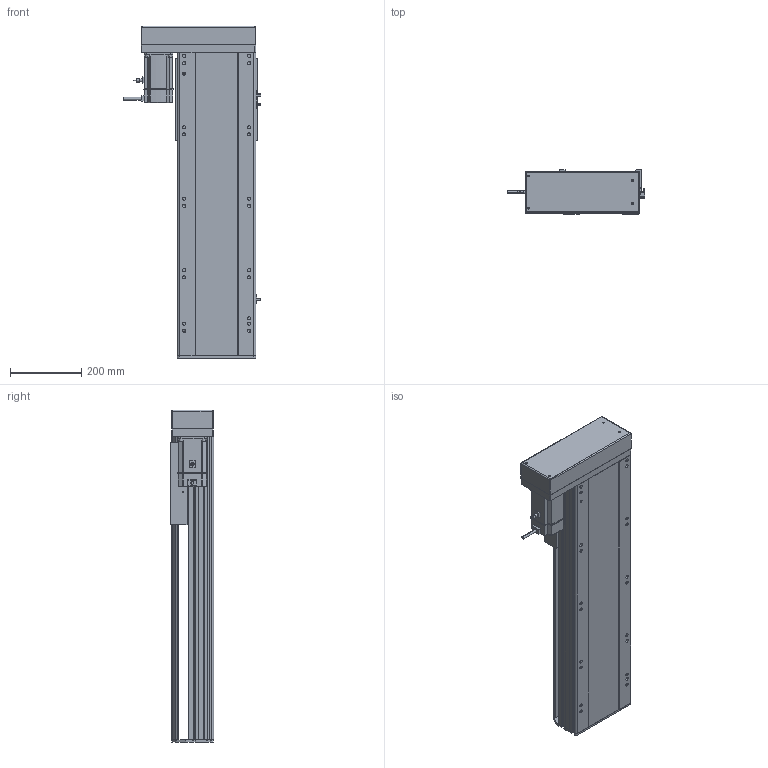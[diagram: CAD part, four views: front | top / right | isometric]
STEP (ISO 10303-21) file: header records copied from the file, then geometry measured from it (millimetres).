
FILE_DESCRIPTION (( 'STEP AP214' ), '1' );
FILE_NAME ('RTH22-XX-550-R-M75-C4.STEP', '2025-10-25T03:09:49', ( 'Microsoft' ), ( 'Microsoft' ), 'SwSTEP 2.0', 'SolidWorks 2018', '' );
FILE_SCHEMA (( 'AUTOMOTIVE_DESIGN' ));
Length unit declared in the file: millimetre
Products named in the file (10): N_750W萇儂^RTH22-XX-XX-R-M75-C4; N_RTH22-GY-013外置感应片^RTH22-XX-XX-R-M75-C4; N_OMRON EE-SX672 传感器^RTH22-XX-XX-R-M75-C4; N_RTH22-GY-001耜裔^RTH22-XX-XX-R-M75-C4; N_RTH22-L-004-SFS25賑釱^RTH22-XX-XX-R-M75-C4; N_RTH22-L-011菁釱^RTH22-XX-XX-R-M75-C4; N_RTH22-L-018裔赽^RTH22-XX-XX-R-M75-C4; N_RTH22-L-007奻裔^RTH22-XX-XX-R-M75-C4; N_RTH22-R-008-P75萇儂啣^RTH22-XX-XX-R-M75-C4; RTH22-XX-550-R-M75-C4
Assembly tree (11 placements, depth 2):
  RTH22-XX-550-R-M75-C4
    N_RTH22-L-011菁釱^RTH22-XX-XX-R-M75-C4
    N_RTH22-GY-001耜裔^RTH22-XX-XX-R-M75-C4
    N_750W萇儂^RTH22-XX-XX-R-M75-C4
    N_RTH22-R-008-P75萇儂啣^RTH22-XX-XX-R-M75-C4
    N_RTH22-L-007奻裔^RTH22-XX-XX-R-M75-C4
    N_OMRON EE-SX672 传感器^RTH22-XX-XX-R-M75-C4  x3
    N_RTH22-GY-013外置感应片^RTH22-XX-XX-R-M75-C4
    N_RTH22-L-004-SFS25賑釱^RTH22-XX-XX-R-M75-C4
    N_RTH22-L-018裔赽^RTH22-XX-XX-R-M75-C4
Bounding box: 384.7 x 122 x 929.7 mm (x, y, z)
Volume: 13669750.1 mm3; surface area: 1594231.6 mm2
Topology: 11 solids, 11 shells, 1556 faces, 4247 edges, 2743 vertices
Faces by surface type: plane 789, cylinder 438, bspline 279, cone 50
Entity records: 38651 total; most frequent: CARTESIAN_POINT 11906, ORIENTED_EDGE 5486, DIRECTION 5129, EDGE_CURVE 2743, VERTEX_POINT 1779, LINE 1717, VECTOR 1717, AXIS2_PLACEMENT_3D 1706
